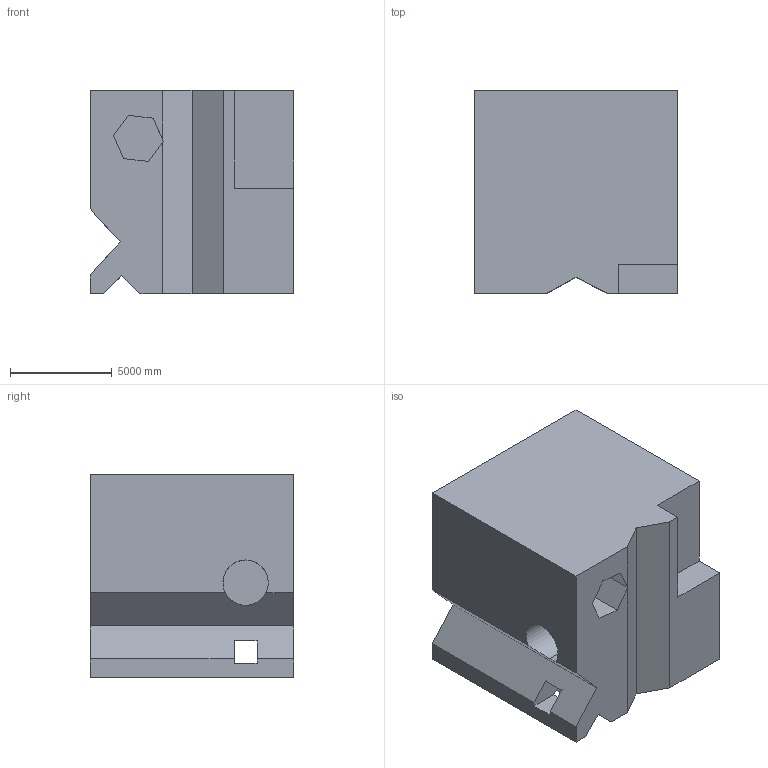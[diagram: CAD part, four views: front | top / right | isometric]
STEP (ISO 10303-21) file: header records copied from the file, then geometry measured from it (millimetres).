
FILE_DESCRIPTION (( 'STEP AP203' ), '1' );
FILE_NAME ('1698.STEP', '2022-08-19T11:49:43', ( 'user' ), ( '' ), 'SwSTEP 2.0', 'SolidWorks 2021', '' );
FILE_SCHEMA (( 'CONFIG_CONTROL_DESIGN' ));
Length unit declared in the file: centimetre
Products named in the file (1): 1698
Bounding box: 10000 x 10000 x 10000 mm (x, y, z)
Volume: 871633923052.2 mm3; surface area: 749101113.6 mm2
Topology: 1 solids, 1 shells, 33 faces, 102 edges, 68 vertices
Faces by surface type: plane 31, cylinder 2
Entity records: 1205 total; most frequent: CARTESIAN_POINT 210, ORIENTED_EDGE 204, DIRECTION 172, EDGE_CURVE 102, LINE 96, VECTOR 96, VERTEX_POINT 68, AXIS2_PLACEMENT_3D 38
